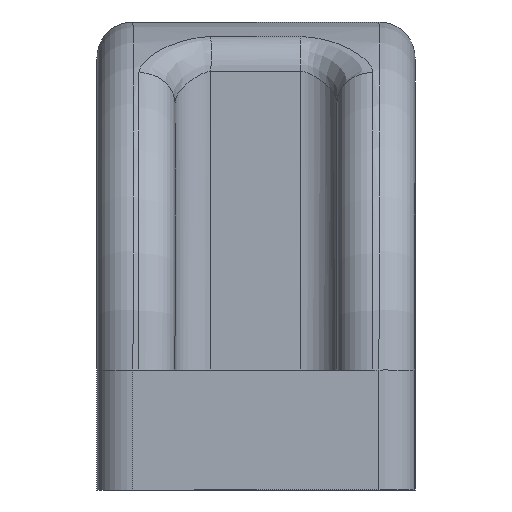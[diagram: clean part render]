
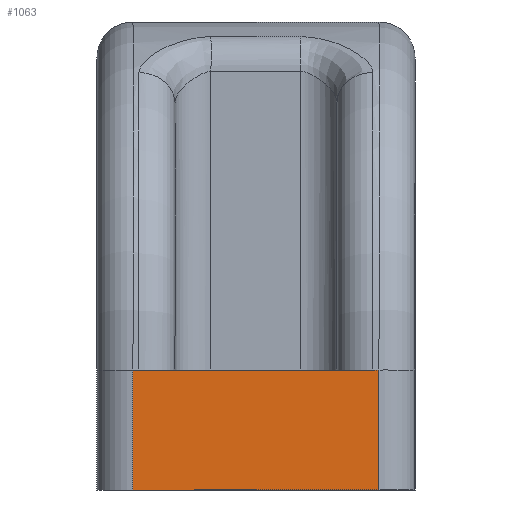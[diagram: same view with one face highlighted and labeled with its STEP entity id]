
A CAD part, left-side view. The second image highlights one B-rep face of the part: STEP entity #1063.
In plain terms, the highlighted planar face has unit normal (-1, 0, 0).
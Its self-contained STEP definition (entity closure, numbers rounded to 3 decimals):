
#1008=CARTESIAN_POINT('',(-71.5,0.,5.));
#1009=DIRECTION('',(0.,0.,-1.));
#1010=DIRECTION('',(1.,-0.,0.));
#1011=AXIS2_PLACEMENT_3D('',#1008,#1010,#1009);
#1012=PLANE('',#1011);
#1013=CARTESIAN_POINT('',(-71.5,-10.25,10.));
#1014=VERTEX_POINT('',#1013);
#1015=CARTESIAN_POINT('',(-71.5,-9.75,10.));
#1016=VERTEX_POINT('',#1015);
#1017=CARTESIAN_POINT('',(-71.5,-10.25,10.));
#1018=DIRECTION('',(0.,1.,0.));
#1019=VECTOR('',#1018,0.5);
#1020=LINE('',#1017,#1019);
#1021=EDGE_CURVE('',#1014,#1016,#1020,.T.);
#1022=ORIENTED_EDGE('E35',*,*,#1021,.F.);
#1023=CARTESIAN_POINT('',(-71.5,-10.25,0.));
#1024=VERTEX_POINT('',#1023);
#1025=CARTESIAN_POINT('',(-71.5,-10.25,10.));
#1026=DIRECTION('',(0.,0.,-1.));
#1027=VECTOR('',#1026,10.);
#1028=LINE('',#1025,#1027);
#1029=EDGE_CURVE('',#1014,#1024,#1028,.T.);
#1030=ORIENTED_EDGE('E124',*,*,#1029,.T.);
#1031=CARTESIAN_POINT('',(-71.5,10.25,0.));
#1032=VERTEX_POINT('',#1031);
#1033=CARTESIAN_POINT('',(-71.5,-10.25,0.));
#1034=DIRECTION('',(0.,1.,0.));
#1035=VECTOR('',#1034,20.5);
#1036=LINE('',#1033,#1035);
#1037=EDGE_CURVE('',#1024,#1032,#1036,.T.);
#1038=ORIENTED_EDGE('E36',*,*,#1037,.T.);
#1039=CARTESIAN_POINT('',(-71.5,10.25,10.));
#1040=VERTEX_POINT('',#1039);
#1041=CARTESIAN_POINT('',(-71.5,10.25,10.));
#1042=DIRECTION('',(0.,0.,-1.));
#1043=VECTOR('',#1042,10.);
#1044=LINE('',#1041,#1043);
#1045=EDGE_CURVE('',#1040,#1032,#1044,.T.);
#1046=ORIENTED_EDGE('E156',*,*,#1045,.F.);
#1047=CARTESIAN_POINT('',(-71.5,9.75,10.));
#1048=VERTEX_POINT('',#1047);
#1049=CARTESIAN_POINT('',(-71.5,9.75,10.));
#1050=DIRECTION('',(0.,1.,0.));
#1051=VECTOR('',#1050,0.5);
#1052=LINE('',#1049,#1051);
#1053=EDGE_CURVE('',#1048,#1040,#1052,.T.);
#1054=ORIENTED_EDGE('E204',*,*,#1053,.F.);
#1055=CARTESIAN_POINT('',(-71.5,-9.75,10.));
#1056=DIRECTION('',(0.,1.,0.));
#1057=VECTOR('',#1056,19.5);
#1058=LINE('',#1055,#1057);
#1059=EDGE_CURVE('',#1016,#1048,#1058,.T.);
#1060=ORIENTED_EDGE('E48',*,*,#1059,.F.);
#1061=EDGE_LOOP('',(#1022,#1030,#1038,#1046,#1054,#1060));
#1062=FACE_OUTER_BOUND('',#1061,.F.);
#1063=ADVANCED_FACE('F12',(#1062),#1012,.F.);
